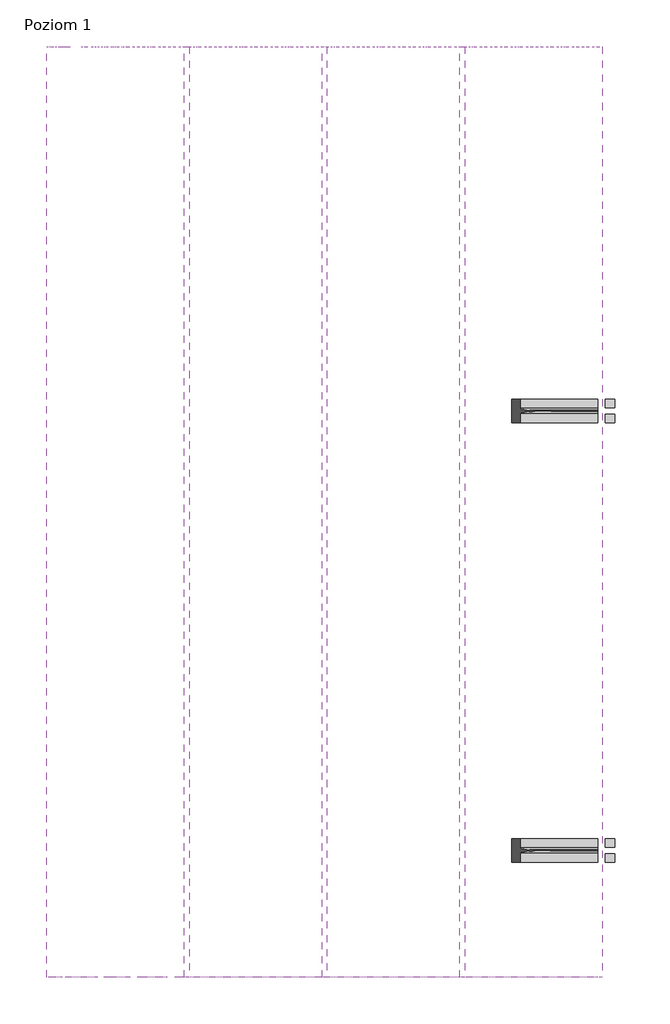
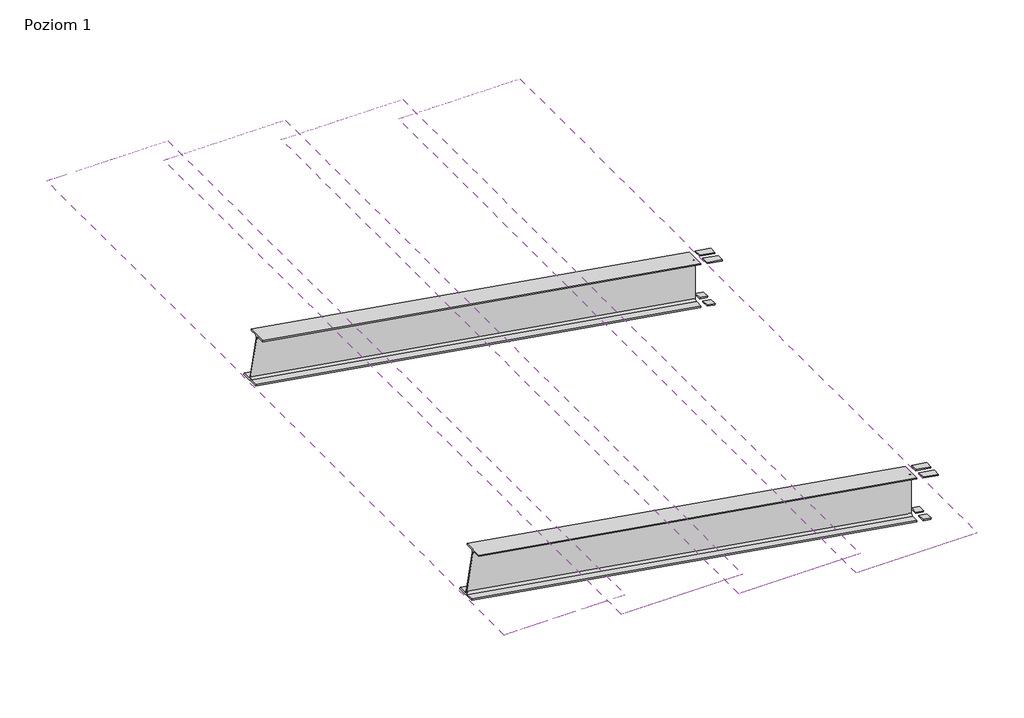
# One storey: 4 coverings, 2 beams.
"""IFC4 building model written with IfcOpenShell, lengths in millimetres."""

from ifc_helpers import new_model, si_unit, point, frame, frame_2d, origin, place, context, project, spatial, polyline, circle_curve, ellipse_curve, trimmed, segment, composite_curve, outline, extrude, faceted_brep, transform, mapped, element, save
from ifc_brep_helpers import plane_surface, cylinder_surface, revolved_surface, advanced_brep
from components import covering_1a136c0f

model = new_model("IFC4")

# Units and contexts
model_context = context("Model", 3, world=origin())
ifc_project = project(units=[si_unit("LENGTHUNIT", "METRE", prefix="MILLI")], contexts=[model_context])

# Site, building, storey
site = spatial("IfcSite", under=ifc_project)
building = spatial("IfcBuilding", under=site)
storey = spatial("IfcBuildingStorey", under=building, Name="Poziom 1", Elevation=3000.0)

# Beams
placement = place(None, origin())
element("IfcBeam", 1, ObjectType="Standard2 : Standard", at=placement, inside=storey, context=model_context, shape_type="SolidModel", body=[
    advanced_brep(
    [(-4809.5463115, -7785.3492704, 4748.6330156), (-4809.5463115, -7717.7942704, 4748.6330156), (-4806.6869603, -7700.0942704, 4766.1005314), (-4750.6630614, -7700.0942704, 5108.3454185), (-4747.8037101, -7717.7942704, 5125.8129344), (-4747.8037101, -7785.3492704, 5125.8129344), (-4746.0428667, -7785.3492704, 5136.5697662), (-4746.0428667, -7607.3492704, 5136.5697662), (-4747.8037101, -7607.3492704, 5125.8129344), (-4747.8037101, -7674.9042704, 5125.8129344), (-4750.6630614, -7692.6042704, 5108.3454185), (-4806.6869603, -7692.6042704, 4766.1005314), (-4809.5463115, -7674.9042704, 4748.6330156), (-4809.5463115, -7607.3492704, 4748.6330156), (-4811.307155, -7607.3492704, 4737.8761837), (-4811.307155, -7785.3492704, 4737.8761837), (-877.2962443, -7785.3492704, 4104.9419374), (-877.2962443, -7717.7942704, 4104.9419374), (-877.2962443, -7700.0942704, 4122.8775158), (-877.2962443, -7700.0942704, 4474.2932551), (-877.2962443, -7717.7942704, 4492.2288334), (-877.2962443, -7785.3492704, 4492.2288334), (-877.2962443, -7785.3492704, 4503.2739071), (-877.2962443, -7607.3492704, 4503.2739071), (-877.2962443, -7607.3492704, 4492.2288334), (-877.2962443, -7674.9042704, 4492.2288334), (-877.2962443, -7692.6042704, 4474.2932551), (-877.2962443, -7692.6042704, 4122.8775158), (-877.2962443, -7674.9042704, 4104.9419374), (-877.2962443, -7607.3492704, 4104.9419374), (-877.2962443, -7607.3492704, 4093.8968637), (-877.2962443, -7785.3492704, 4093.8968637)],
    [
        (0, 1),
        (1, 2, circle_curve(frame((-4806.6869603, -7717.7942704, 4766.1005314), z_axis=(0.9868653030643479, 0.0, -0.16154526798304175), x_axis=(0.0, 1.0, 0.0)), 17.7)),
        (2, 3),
        (3, 4, circle_curve(frame((-4750.6630614, -7717.7942704, 5108.3454185), z_axis=(0.9868653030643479, 0.0, -0.16154526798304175), x_axis=(0.0, 1.0, 0.0)), 17.7)),
        (4, 5),
        (5, 6),
        (6, 7),
        (7, 8),
        (8, 9),
        (9, 10, circle_curve(frame((-4750.6630614, -7674.9042704, 5108.3454185), z_axis=(0.9868653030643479, 0.0, -0.16154526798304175), x_axis=(0.0, 1.0, 0.0)), 17.7)),
        (10, 11),
        (11, 12, circle_curve(frame((-4806.6869603, -7674.9042704, 4766.1005314), z_axis=(0.9868653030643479, 0.0, -0.16154526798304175), x_axis=(0.0, 1.0, 0.0)), 17.7)),
        (12, 13),
        (13, 14),
        (14, 15),
        (15, 0),
        (0, 16),
        (16, 17),
        (17, 1),
        (17, 18, ellipse_curve(frame((-877.2962443, -7717.7942704, 4122.8775158), z_axis=(1.0, 0.0, 0.0), x_axis=(0.0, 0.0, -1.0)), 17.9355784, 17.7)),
        (18, 2),
        (18, 19),
        (19, 3),
        (19, 20, ellipse_curve(frame((-877.2962443, -7717.7942704, 4474.2932551), z_axis=(1.0, 0.0, 0.0), x_axis=(0.0, 0.0, -1.0)), 17.9355784, 17.7)),
        (20, 4),
        (20, 21),
        (21, 5),
        (21, 22),
        (22, 6),
        (22, 23),
        (23, 7),
        (23, 24),
        (24, 8),
        (24, 25),
        (25, 9),
        (25, 26, ellipse_curve(frame((-877.2962443, -7674.9042704, 4474.2932551), z_axis=(1.0, 0.0, 0.0), x_axis=(0.0, 0.0, -1.0)), 17.9355784, 17.7)),
        (26, 10),
        (26, 27),
        (27, 11),
        (27, 28, ellipse_curve(frame((-877.2962443, -7674.9042704, 4122.8775158), z_axis=(1.0, 0.0, 0.0), x_axis=(0.0, 0.0, -1.0)), 17.9355784, 17.7)),
        (28, 12),
        (28, 29),
        (29, 13),
        (29, 30),
        (30, 14),
        (30, 31),
        (31, 15),
        (31, 16),
    ],
    [
        plane_surface(frame((-4778.6750108, -7696.3492704, 4937.222975), z_axis=(-0.9868653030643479, 0.0, 0.16154526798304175), x_axis=(0.16154526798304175, 0.0, 0.9868653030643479))),
        plane_surface(frame((-4809.5463115, -7785.3492704, 4748.6330156), z_axis=(0.16154526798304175, 0.0, 0.9868653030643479), x_axis=(0.9868653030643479, 0.0, -0.16154526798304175))),
        revolved_surface(polyline([(-874.4368930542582, -7700.0942704, 4122.409453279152), (-4806.6869603, -7700.0942704, 4766.1005314)]), (-4806.6869603, -7717.7942704, 4766.1005314), (0.9868653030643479, 0.0, -0.16154526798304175)),
        plane_surface(frame((-4806.6869603, -7700.0942704, 4766.1005314), z_axis=(0.0, -1.0, 0.0), x_axis=(0.9868653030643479, 0.0, -0.16154526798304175))),
        revolved_surface(polyline([(-874.4368930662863, -7700.0942704, 4473.825192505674), (-4750.6630614, -7700.0942704, 5108.3454185)]), (-4750.6630614, -7717.7942704, 5108.3454185), (0.9868653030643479, 0.0, -0.16154526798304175)),
        plane_surface(frame((-4747.8037101, -7717.7942704, 5125.8129344), z_axis=(-0.16154526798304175, 0.0, -0.9868653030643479), x_axis=(0.9868653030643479, 0.0, -0.16154526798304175))),
        plane_surface(frame((-4747.8037101, -7785.3492704, 5125.8129344), z_axis=(0.0, -1.0, 0.0), x_axis=(0.9868653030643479, 0.0, -0.16154526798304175))),
        plane_surface(frame((-4746.0428667, -7785.3492704, 5136.5697662), z_axis=(0.16154526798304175, 0.0, 0.9868653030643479), x_axis=(0.9868653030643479, 0.0, -0.16154526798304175))),
        plane_surface(frame((-4746.0428667, -7607.3492704, 5136.5697662), z_axis=(0.0, 1.0, 0.0), x_axis=(0.9868653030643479, 0.0, -0.16154526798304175))),
        plane_surface(frame((-4747.8037101, -7607.3492704, 5125.8129344), z_axis=(-0.16154526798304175, 0.0, -0.9868653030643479), x_axis=(0.9868653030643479, 0.0, -0.16154526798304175))),
        revolved_surface(polyline([(-874.4368930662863, -7657.2042704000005, 4473.825192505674), (-4750.6630614, -7657.2042704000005, 5108.3454185)]), (-4750.6630614, -7674.9042704, 5108.3454185), (0.9868653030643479, 0.0, -0.16154526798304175)),
        plane_surface(frame((-4750.6630614, -7692.6042704, 5108.3454185), z_axis=(0.0, 1.0, 0.0), x_axis=(0.9868653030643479, 0.0, -0.16154526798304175))),
        revolved_surface(polyline([(-874.4368930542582, -7657.2042704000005, 4122.409453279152), (-4806.6869603, -7657.2042704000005, 4766.1005314)]), (-4806.6869603, -7674.9042704, 4766.1005314), (0.9868653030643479, 0.0, -0.16154526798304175)),
        plane_surface(frame((-4809.5463115, -7674.9042704, 4748.6330156), z_axis=(0.16154526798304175, 0.0, 0.9868653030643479), x_axis=(0.9868653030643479, 0.0, -0.16154526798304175))),
        plane_surface(frame((-4809.5463115, -7607.3492704, 4748.6330156), z_axis=(0.0, 1.0, 0.0), x_axis=(0.9868653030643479, 0.0, -0.16154526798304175))),
        plane_surface(frame((-4811.307155, -7607.3492704, 4737.8761837), z_axis=(-0.16154526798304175, 0.0, -0.9868653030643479), x_axis=(0.9868653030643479, 0.0, -0.16154526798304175))),
        plane_surface(frame((-4811.307155, -7785.3492704, 4737.8761837), z_axis=(0.0, -1.0, 0.0), x_axis=(0.9868653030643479, 0.0, -0.16154526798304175))),
        plane_surface(frame((-877.2962443, -7805.8492704, -20.0), z_axis=(1.0, 0.0, 0.0), x_axis=(0.0, 0.0, 1.0))),
    ],
    [
        (0, [[1, 2, 3, 4, 5, 6, 7, 8, 9, 10, 11, 12, 13, 14, 15, 16]]),
        (1, [[-1, 17, 18, 19]]),
        (2, [[-2, -19, 20, 21]]),
        (3, [[-3, -21, 22, 23]]),
        (4, [[-4, -23, 24, 25]]),
        (5, [[-5, -25, 26, 27]]),
        (6, [[-6, -27, 28, 29]]),
        (7, [[-7, -29, 30, 31]]),
        (8, [[-8, -31, 32, 33]]),
        (9, [[-9, -33, 34, 35]]),
        (10, [[-10, -35, 36, 37]]),
        (11, [[-11, -37, 38, 39]]),
        (12, [[-12, -39, 40, 41]]),
        (13, [[-13, -41, 42, 43]]),
        (14, [[-14, -43, 44, 45]]),
        (15, [[-15, -45, 46, 47]]),
        (16, [[-16, -47, 48, -17]]),
        (17, [[-18, -48, -46, -44, -42, -40, -38, -36, -34, -32, -30, -28, -26, -24, -22, -20]]),
    ],
),
    faceted_brep([(-754.3610265, -7607.3492704, 4073.7729394), (-752.6001831, -7607.3492704, 4084.5297712), (-752.6001831, -7671.9692704, 4084.5297712), (-754.3610265, -7671.9692704, 4073.7729394), (-822.8962443, -7671.9692704, 4084.9918363), (-822.8962443, -7671.9692704, 4096.03691), (-822.8962443, -7607.3492704, 4096.03691), (-822.8962443, -7607.3492704, 4084.9918363)], [[[0, 1, 2, 3]], [[4, 5, 6, 7]], [[5, 4, 3, 2]], [[2, 1, 6, 5]], [[1, 0, 7, 6]], [[0, 3, 4, 7]]]),
    faceted_brep([(-822.8962443, -7720.7292704, 4084.9918363), (-822.8962443, -7720.7292704, 4096.03691), (-752.6001831, -7720.7292704, 4084.5297712), (-754.3610265, -7720.7292704, 4073.7729394), (-822.8962443, -7785.3492704, 4084.9918363), (-822.8962443, -7785.3492704, 4096.03691), (-752.6001831, -7785.3492704, 4084.5297712), (-754.3610265, -7785.3492704, 4073.7729394)], [[[0, 1, 2, 3]], [[1, 0, 4, 5]], [[6, 7, 3, 2]], [[6, 2, 1, 5]], [[3, 7, 4, 0]], [[7, 6, 5, 4]]]),
    faceted_brep([(-690.8575817, -7607.3492704, 4461.70969), (-689.0967383, -7607.3492704, 4472.4665218), (-689.0967383, -7671.9692704, 4472.4665218), (-690.8575817, -7671.9692704, 4461.70969), (-822.8962443, -7607.3492704, 4494.3688797), (-822.8962443, -7671.9692704, 4494.3688797), (-822.8962443, -7607.3492704, 4483.323806), (-822.8962443, -7671.9692704, 4483.323806)], [[[0, 1, 2, 3]], [[2, 1, 4, 5]], [[1, 0, 6, 4]], [[0, 3, 7, 6]], [[7, 5, 4, 6]], [[5, 7, 3, 2]]]),
    faceted_brep([(-689.0967383, -7785.3492704, 4472.4665218), (-690.8575817, -7785.3492704, 4461.70969), (-690.8575817, -7720.7292704, 4461.70969), (-689.0967383, -7720.7292704, 4472.4665218), (-822.8962443, -7785.3492704, 4483.323806), (-822.8962443, -7720.7292704, 4483.323806), (-822.8962443, -7785.3492704, 4494.3688797), (-822.8962443, -7720.7292704, 4494.3688797)], [[[0, 1, 2, 3]], [[2, 1, 4, 5]], [[1, 0, 6, 4]], [[0, 3, 7, 6]], [[5, 7, 3, 2]], [[7, 5, 4, 6]]]),
])
element("IfcBeam", 2, ObjectType="Standard2 : Standard", at=placement, inside=storey, context=model_context, shape_type="SolidModel", body=[
    advanced_brep(
    [(-4809.5463115, -4480.5492704, 4748.6330156), (-4809.5463115, -4412.9942704, 4748.6330156), (-4806.6869603, -4395.2942704, 4766.1005314), (-4750.6630614, -4395.2942704, 5108.3454185), (-4747.8037101, -4412.9942704, 5125.8129344), (-4747.8037101, -4480.5492704, 5125.8129344), (-4746.0428667, -4480.5492704, 5136.5697662), (-4746.0428667, -4302.5492704, 5136.5697662), (-4747.8037101, -4302.5492704, 5125.8129344), (-4747.8037101, -4370.1042704, 5125.8129344), (-4750.6630614, -4387.8042704, 5108.3454185), (-4806.6869603, -4387.8042704, 4766.1005314), (-4809.5463115, -4370.1042704, 4748.6330156), (-4809.5463115, -4302.5492704, 4748.6330156), (-4811.307155, -4302.5492704, 4737.8761837), (-4811.307155, -4480.5492704, 4737.8761837), (-877.2962443, -4480.5492704, 4104.9419374), (-877.2962443, -4412.9942704, 4104.9419374), (-877.2962443, -4395.2942704, 4122.8775158), (-877.2962443, -4395.2942704, 4474.2932551), (-877.2962443, -4412.9942704, 4492.2288334), (-877.2962443, -4480.5492704, 4492.2288334), (-877.2962443, -4480.5492704, 4503.2739071), (-877.2962443, -4302.5492704, 4503.2739071), (-877.2962443, -4302.5492704, 4492.2288334), (-877.2962443, -4370.1042704, 4492.2288334), (-877.2962443, -4387.8042704, 4474.2932551), (-877.2962443, -4387.8042704, 4122.8775158), (-877.2962443, -4370.1042704, 4104.9419374), (-877.2962443, -4302.5492704, 4104.9419374), (-877.2962443, -4302.5492704, 4093.8968637), (-877.2962443, -4480.5492704, 4093.8968637)],
    [
        (0, 1),
        (1, 2, circle_curve(frame((-4806.6869603, -4412.9942704, 4766.1005314), z_axis=(0.9868653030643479, 0.0, -0.16154526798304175), x_axis=(0.0, 1.0, 0.0)), 17.7)),
        (2, 3),
        (3, 4, circle_curve(frame((-4750.6630614, -4412.9942704, 5108.3454185), z_axis=(0.9868653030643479, 0.0, -0.16154526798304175), x_axis=(0.0, 1.0, 0.0)), 17.7)),
        (4, 5),
        (5, 6),
        (6, 7),
        (7, 8),
        (8, 9),
        (9, 10, circle_curve(frame((-4750.6630614, -4370.1042704, 5108.3454185), z_axis=(0.9868653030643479, 0.0, -0.16154526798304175), x_axis=(0.0, 1.0, 0.0)), 17.7)),
        (10, 11),
        (11, 12, circle_curve(frame((-4806.6869603, -4370.1042704, 4766.1005314), z_axis=(0.9868653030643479, 0.0, -0.16154526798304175), x_axis=(0.0, 1.0, 0.0)), 17.7)),
        (12, 13),
        (13, 14),
        (14, 15),
        (15, 0),
        (0, 16),
        (16, 17),
        (17, 1),
        (17, 18, ellipse_curve(frame((-877.2962443, -4412.9942704, 4122.8775158), z_axis=(1.0, 0.0, 0.0), x_axis=(0.0, 0.0, -1.0)), 17.9355784, 17.7)),
        (18, 2),
        (18, 19),
        (19, 3),
        (19, 20, ellipse_curve(frame((-877.2962443, -4412.9942704, 4474.2932551), z_axis=(1.0, 0.0, 0.0), x_axis=(0.0, 0.0, -1.0)), 17.9355784, 17.7)),
        (20, 4),
        (20, 21),
        (21, 5),
        (21, 22),
        (22, 6),
        (22, 23),
        (23, 7),
        (23, 24),
        (24, 8),
        (24, 25),
        (25, 9),
        (25, 26, ellipse_curve(frame((-877.2962443, -4370.1042704, 4474.2932551), z_axis=(1.0, 0.0, 0.0), x_axis=(0.0, 0.0, -1.0)), 17.9355784, 17.7)),
        (26, 10),
        (26, 27),
        (27, 11),
        (27, 28, ellipse_curve(frame((-877.2962443, -4370.1042704, 4122.8775158), z_axis=(1.0, 0.0, 0.0), x_axis=(0.0, 0.0, -1.0)), 17.9355784, 17.7)),
        (28, 12),
        (28, 29),
        (29, 13),
        (29, 30),
        (30, 14),
        (30, 31),
        (31, 15),
        (31, 16),
    ],
    [
        plane_surface(frame((-4778.6750108, -4391.5492704, 4937.222975), z_axis=(-0.9868653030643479, 0.0, 0.16154526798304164), x_axis=(0.16154526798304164, 0.0, 0.9868653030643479))),
        plane_surface(frame((-4809.5463115, -4480.5492704, 4748.6330156), z_axis=(0.16154526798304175, 0.0, 0.9868653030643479), x_axis=(0.9868653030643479, 0.0, -0.16154526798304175))),
        revolved_surface(polyline([(-874.4368930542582, -4395.2942704, 4122.409453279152), (-4806.6869603, -4395.2942704, 4766.1005314)]), (-4806.6869603, -4412.9942704, 4766.1005314), (0.9868653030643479, 0.0, -0.16154526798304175)),
        plane_surface(frame((-4806.6869603, -4395.2942704, 4766.1005314), z_axis=(0.0, -1.0, 0.0), x_axis=(0.9868653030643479, 0.0, -0.16154526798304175))),
        revolved_surface(polyline([(-874.4368930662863, -4395.2942704, 4473.825192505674), (-4750.6630614, -4395.2942704, 5108.3454185)]), (-4750.6630614, -4412.9942704, 5108.3454185), (0.9868653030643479, 0.0, -0.16154526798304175)),
        plane_surface(frame((-4747.8037101, -4412.9942704, 5125.8129344), z_axis=(-0.16154526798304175, 0.0, -0.9868653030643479), x_axis=(0.9868653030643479, 0.0, -0.16154526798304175))),
        plane_surface(frame((-4747.8037101, -4480.5492704, 5125.8129344), z_axis=(0.0, -1.0, 0.0), x_axis=(0.9868653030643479, 0.0, -0.16154526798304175))),
        plane_surface(frame((-4746.0428667, -4480.5492704, 5136.5697662), z_axis=(0.16154526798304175, 0.0, 0.9868653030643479), x_axis=(0.9868653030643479, 0.0, -0.16154526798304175))),
        plane_surface(frame((-4746.0428667, -4302.5492704, 5136.5697662), z_axis=(0.0, 1.0, 0.0), x_axis=(0.9868653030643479, 0.0, -0.16154526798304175))),
        plane_surface(frame((-4747.8037101, -4302.5492704, 5125.8129344), z_axis=(-0.16154526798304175, 0.0, -0.9868653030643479), x_axis=(0.9868653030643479, 0.0, -0.16154526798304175))),
        revolved_surface(polyline([(-874.4368930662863, -4352.4042704, 4473.825192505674), (-4750.6630614, -4352.4042704, 5108.3454185)]), (-4750.6630614, -4370.1042704, 5108.3454185), (0.9868653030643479, 0.0, -0.16154526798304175)),
        plane_surface(frame((-4750.6630614, -4387.8042704, 5108.3454185), z_axis=(0.0, 1.0, 0.0), x_axis=(0.9868653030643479, 0.0, -0.16154526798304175))),
        revolved_surface(polyline([(-874.4368930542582, -4352.4042704, 4122.409453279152), (-4806.6869603, -4352.4042704, 4766.1005314)]), (-4806.6869603, -4370.1042704, 4766.1005314), (0.9868653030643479, 0.0, -0.16154526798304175)),
        plane_surface(frame((-4809.5463115, -4370.1042704, 4748.6330156), z_axis=(0.16154526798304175, 0.0, 0.9868653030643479), x_axis=(0.9868653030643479, 0.0, -0.16154526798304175))),
        plane_surface(frame((-4809.5463115, -4302.5492704, 4748.6330156), z_axis=(0.0, 1.0, 0.0), x_axis=(0.9868653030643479, 0.0, -0.16154526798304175))),
        plane_surface(frame((-4811.307155, -4302.5492704, 4737.8761837), z_axis=(-0.16154526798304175, 0.0, -0.9868653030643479), x_axis=(0.9868653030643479, 0.0, -0.16154526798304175))),
        plane_surface(frame((-4811.307155, -4480.5492704, 4737.8761837), z_axis=(0.0, -1.0, 0.0), x_axis=(0.9868653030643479, 0.0, -0.16154526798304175))),
        plane_surface(frame((-877.2962443, -4501.0492704, -20.0), z_axis=(1.0, 0.0, 0.0), x_axis=(0.0, 0.0, 1.0))),
    ],
    [
        (0, [[1, 2, 3, 4, 5, 6, 7, 8, 9, 10, 11, 12, 13, 14, 15, 16]]),
        (1, [[-1, 17, 18, 19]]),
        (2, [[-2, -19, 20, 21]]),
        (3, [[-3, -21, 22, 23]]),
        (4, [[-4, -23, 24, 25]]),
        (5, [[-5, -25, 26, 27]]),
        (6, [[-6, -27, 28, 29]]),
        (7, [[-7, -29, 30, 31]]),
        (8, [[-8, -31, 32, 33]]),
        (9, [[-9, -33, 34, 35]]),
        (10, [[-10, -35, 36, 37]]),
        (11, [[-11, -37, 38, 39]]),
        (12, [[-12, -39, 40, 41]]),
        (13, [[-13, -41, 42, 43]]),
        (14, [[-14, -43, 44, 45]]),
        (15, [[-15, -45, 46, 47]]),
        (16, [[-16, -47, 48, -17]]),
        (17, [[-18, -48, -46, -44, -42, -40, -38, -36, -34, -32, -30, -28, -26, -24, -22, -20]]),
    ],
),
    faceted_brep([(-754.3610265, -4302.5492704, 4073.7729394), (-752.6001831, -4302.5492704, 4084.5297712), (-752.6001831, -4367.1692704, 4084.5297712), (-754.3610265, -4367.1692704, 4073.7729394), (-822.8962443, -4367.1692704, 4084.9918363), (-822.8962443, -4367.1692704, 4096.03691), (-822.8962443, -4302.5492704, 4096.03691), (-822.8962443, -4302.5492704, 4084.9918363)], [[[0, 1, 2, 3]], [[4, 5, 6, 7]], [[5, 4, 3, 2]], [[2, 1, 6, 5]], [[1, 0, 7, 6]], [[0, 3, 4, 7]]]),
    faceted_brep([(-822.8962443, -4415.9292704, 4084.9918363), (-822.8962443, -4415.9292704, 4096.03691), (-752.6001831, -4415.9292704, 4084.5297712), (-754.3610265, -4415.9292704, 4073.7729394), (-822.8962443, -4480.5492704, 4084.9918363), (-822.8962443, -4480.5492704, 4096.03691), (-752.6001831, -4480.5492704, 4084.5297712), (-754.3610265, -4480.5492704, 4073.7729394)], [[[0, 1, 2, 3]], [[1, 0, 4, 5]], [[6, 7, 3, 2]], [[6, 2, 1, 5]], [[3, 7, 4, 0]], [[7, 6, 5, 4]]]),
    faceted_brep([(-690.8575817, -4302.5492704, 4461.70969), (-689.0967383, -4302.5492704, 4472.4665218), (-689.0967383, -4367.1692704, 4472.4665218), (-690.8575817, -4367.1692704, 4461.70969), (-822.8962443, -4302.5492704, 4494.3688797), (-822.8962443, -4367.1692704, 4494.3688797), (-822.8962443, -4302.5492704, 4483.323806), (-822.8962443, -4367.1692704, 4483.323806)], [[[0, 1, 2, 3]], [[2, 1, 4, 5]], [[1, 0, 6, 4]], [[0, 3, 7, 6]], [[7, 5, 4, 6]], [[5, 7, 3, 2]]]),
    faceted_brep([(-689.0967383, -4480.5492704, 4472.4665218), (-690.8575817, -4480.5492704, 4461.70969), (-690.8575817, -4415.9292704, 4461.70969), (-689.0967383, -4415.9292704, 4472.4665218), (-822.8962443, -4480.5492704, 4483.323806), (-822.8962443, -4415.9292704, 4483.323806), (-822.8962443, -4480.5492704, 4494.3688797), (-822.8962443, -4415.9292704, 4494.3688797)], [[[0, 1, 2, 3]], [[2, 1, 4, 5]], [[1, 0, 6, 4]], [[0, 3, 7, 6]], [[5, 7, 3, 2]], [[7, 5, 4, 6]]]),
])

# Coverings
element("IfcCovering", 3, ObjectType="Płyta warstwowa dachowa SPR CORE PIR (pojedynczy arkusz) : -", at=placement, inside=storey, context=model_context, shape_type="SolidModel", body=[
    extrude(outline(polyline([(6999.9999825, -1049.0), (0.0, -1049.0000001), (1e-07, -1.8670001), (6999.9999825, -1.8670001), (6999.9999825, -1049.0)])), frame((-3958.005997, -1651.2095372, 5057.2239557), z_axis=(0.16154526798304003, 0.0, 0.9868653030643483), x_axis=(-3.302680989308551e-08, -0.9999999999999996, 5.406335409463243e-09)), (0.0, 0.0, 1.0), 49.0),
    advanced_brep(
    [(-5002.1302834, -1651.2095021, 5178.4900873), (-5020.9927191, -1651.2095014, 5181.5777804), (-5020.4156205, -1651.2095014, 5185.5353154), (-5004.6939706, -1651.209502, 5183.5223016), (-4999.6815587, -1651.2095021, 5187.2589078), (-4993.2277, -1651.2095021, 5226.6849418), (-3959.8484746, -1651.2095372, 5057.5255607), (-3966.1640325, -1651.2095372, 5018.9443933), (-3968.9487102, -1651.2095371, 5016.8685015), (-3986.2312808, -1651.2095365, 5019.0814076), (-3988.4590229, -1651.2095364, 5017.4206942), (-3988.9113497, -1651.2095364, 5014.6574713), (-3991.2081708, -1651.2095364, 5013.0068313), (-5020.9929503, -8651.2094839, 5181.5778183), (-5002.1305146, -8651.2094845, 5178.4901251), (-3991.208402, -8651.2095188, 5013.0068691), (-3988.9115809, -8651.2095189, 5014.6575092), (-3988.4592541, -8651.2095189, 5017.420732), (-3986.231512, -8651.2095189, 5019.0814454), (-3968.9489414, -8651.2095195, 5016.8685393), (-3966.1642637, -8651.2095196, 5018.9444311), (-3959.8487058, -8651.2095196, 5057.5255986), (-4993.2279311, -8651.2094846, 5226.6849797), (-4999.6817899, -8651.2094846, 5187.2589457), (-5004.6942018, -8651.2094844, 5183.5223395), (-5020.4158517, -8651.2094839, 5185.5353533)],
    [
        (0, 1),
        (1, 2, circle_curve(frame((-5020.6696286, -1651.2095014, 5183.551511), z_axis=(3.302680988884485e-08, 0.9999999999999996, -5.406335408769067e-09), x_axis=(0.9868653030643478, -3.346638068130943e-08, -0.16154526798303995)), 2.0)),
        (2, 3),
        (3, 4, circle_curve(frame((-5004.1224525, -1651.209502, 5187.9858615), z_axis=(-3.302680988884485e-08, -0.9999999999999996, 5.406335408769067e-09), x_axis=(0.9868653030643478, -3.346638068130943e-08, -0.16154526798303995)), 4.5)),
        (4, 5),
        (5, 6),
        (6, 7),
        (7, 8, circle_curve(frame((-3968.6311958, -1651.2095371, 5019.3482564), z_axis=(3.302680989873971e-08, 0.9999999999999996, -5.4063354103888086e-09), x_axis=(0.9868653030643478, -3.3466380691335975e-08, -0.16154526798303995)), 2.5)),
        (8, 9),
        (9, 10, circle_curve(frame((-3986.4852923, -1651.2095365, 5017.0976036), z_axis=(-3.302680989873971e-08, -0.9999999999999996, 5.4063354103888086e-09), x_axis=(0.9868653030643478, -3.3466380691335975e-08, -0.16154526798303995)), 2.0)),
        (10, 11),
        (11, 12, circle_curve(frame((-3990.8850803, -1651.2095364, 5014.9805619), z_axis=(3.302680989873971e-08, 0.9999999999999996, -5.4063354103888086e-09), x_axis=(0.9868653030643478, -3.3466380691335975e-08, -0.16154526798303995)), 2.0)),
        (12, 0),
        (13, 14),
        (14, 15),
        (15, 16, circle_curve(frame((-3990.8853115, -8651.2095188, 5014.9805997), z_axis=(-3.302680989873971e-08, -0.9999999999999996, 5.4063354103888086e-09), x_axis=(0.9868653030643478, -3.3466380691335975e-08, -0.16154526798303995)), 2.0)),
        (16, 17),
        (17, 18, circle_curve(frame((-3986.4855235, -8651.2095189, 5017.0976415), z_axis=(3.302680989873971e-08, 0.9999999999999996, -5.4063354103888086e-09), x_axis=(0.9868653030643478, -3.3466380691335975e-08, -0.16154526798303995)), 2.0)),
        (18, 19),
        (19, 20, circle_curve(frame((-3968.631427, -8651.2095195, 5019.3482943), z_axis=(-3.302680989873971e-08, -0.9999999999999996, 5.4063354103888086e-09), x_axis=(0.9868653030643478, -3.3466380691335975e-08, -0.16154526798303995)), 2.5)),
        (20, 21),
        (21, 22),
        (22, 23),
        (23, 24, circle_curve(frame((-5004.1226837, -8651.2094844, 5187.9858994), z_axis=(3.302680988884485e-08, 0.9999999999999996, -5.406335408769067e-09), x_axis=(0.9868653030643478, -3.346638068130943e-08, -0.16154526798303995)), 4.5)),
        (24, 25),
        (25, 13, circle_curve(frame((-5020.6698598, -8651.2094839, 5183.5515489), z_axis=(-3.302680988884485e-08, -0.9999999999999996, 5.406335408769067e-09), x_axis=(0.9868653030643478, -3.346638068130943e-08, -0.16154526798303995)), 2.0)),
        (5, 22),
        (21, 6),
        (12, 15),
        (13, 1),
        (3, 24),
        (23, 4),
        (2, 25),
        (7, 20),
        (19, 8),
        (11, 16),
        (10, 17),
        (9, 18),
    ],
    [
        plane_surface(frame((-3958.005997, -1651.2095372, 5057.2239557), z_axis=(3.302680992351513e-08, 0.9999999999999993, -5.40633540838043e-09), x_axis=(0.9868653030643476, -3.3466380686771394e-08, -0.16154526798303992))),
        plane_surface(frame((-3958.0062282, -8651.2095197, 5057.2239936), z_axis=(-3.302680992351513e-08, -0.9999999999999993, 5.40633540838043e-09), x_axis=(-0.9868653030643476, 3.3466380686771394e-08, 0.16154526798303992))),
        plane_surface(frame((-5033.6891774, -1651.2095007, 5233.3082978), z_axis=(0.16154526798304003, 0.0, 0.9868653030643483), x_axis=(-3.302680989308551e-08, -0.9999999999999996, 5.406335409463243e-09))),
        plane_surface(frame((-3965.9217152, -1651.2095372, 5008.8675559), z_axis=(-0.16154526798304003, 0.0, -0.9868653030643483), x_axis=(-3.302680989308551e-08, -0.9999999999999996, 5.406335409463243e-09))),
        revolved_surface(polyline([(-4999.68155863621, -1651.2095021, 5187.258907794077), (-4999.681789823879, -8651.209484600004, 5187.258945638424)]), (-5004.1224525, -1651.209502, 5187.9858615), (3.302680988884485e-08, 0.9999999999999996, -5.406335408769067e-09)),
        plane_surface(frame((-5004.6939706, -1651.209502, 5183.5223016), z_axis=(0.127004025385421, 1.168018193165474e-09, 0.9919022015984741), x_axis=(-3.302680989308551e-08, -0.9999999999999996, 5.406335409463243e-09))),
        cylinder_surface(frame((-5020.6696286, -1651.2095014, 5183.551511), z_axis=(-3.302680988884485e-08, -0.9999999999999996, 5.406335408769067e-09), x_axis=(0.9868653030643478, -3.346638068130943e-08, -0.16154526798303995)), 2.0),
        plane_surface(frame((-4985.3119818, -1651.2095021, 5275.0413417), z_axis=(-0.9868653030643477, 3.346638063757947e-08, 0.16154526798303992), x_axis=(-3.3026809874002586e-08, -0.9999999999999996, 5.406335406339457e-09))),
        cylinder_surface(frame((-3968.6311958, -1651.2095371, 5019.3482564), z_axis=(-3.302680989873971e-08, -0.9999999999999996, 5.4063354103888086e-09), x_axis=(0.9868653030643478, -3.3466380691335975e-08, -0.16154526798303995)), 2.5),
        plane_surface(frame((-3966.1640325, -1651.2095372, 5018.9443933), z_axis=(0.9868653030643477, -3.346638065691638e-08, -0.16154526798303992), x_axis=(-3.302680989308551e-08, -0.9999999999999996, 5.406335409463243e-09))),
        cylinder_surface(frame((-3990.8850803, -1651.2095364, 5014.9805619), z_axis=(-3.302680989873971e-08, -0.9999999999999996, 5.4063354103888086e-09), x_axis=(0.9868653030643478, -3.3466380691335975e-08, -0.16154526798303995)), 2.0),
        plane_surface(frame((-3988.9113497, -1651.2095364, 5014.6574713), z_axis=(0.9868653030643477, -3.346638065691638e-08, -0.16154526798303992), x_axis=(-3.302680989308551e-08, -0.9999999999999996, 5.406335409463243e-09))),
        revolved_surface(polyline([(-3984.511561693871, -1651.2095365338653, 5016.774513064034), (-3984.51179288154, -8651.209519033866, 5016.774550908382)]), (-3986.4852923, -1651.2095365, 5017.0976036), (3.302680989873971e-08, 0.9999999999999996, -5.4063354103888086e-09)),
        plane_surface(frame((-3986.2312808, -1651.2095365, 5019.0814076), z_axis=(-0.12700575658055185, -1.1679598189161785e-09, -0.9919019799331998), x_axis=(-3.302680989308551e-08, -0.9999999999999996, 5.406335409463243e-09))),
    ],
    [
        (0, [[1, 2, 3, 4, 5, 6, 7, 8, 9, 10, 11, 12, 13]]),
        (1, [[14, 15, 16, 17, 18, 19, 20, 21, 22, 23, 24, 25, 26]]),
        (2, [[27, -22, 28, -6]]),
        (3, [[-1, -13, 29, -15, -14, 30]]),
        (4, [[31, -24, 32, -4]]),
        (5, [[-31, -3, 33, -25]]),
        (6, [[-33, -2, -30, -26]]),
        (7, [[-32, -23, -27, -5]]),
        (8, [[34, -20, 35, -8]]),
        (9, [[-34, -7, -28, -21]]),
        (10, [[36, -16, -29, -12]]),
        (11, [[-36, -11, 37, -17]]),
        (12, [[-37, -10, 38, -18]]),
        (13, [[-35, -19, -38, -9]]),
    ],
),
    extrude(outline(polyline([(-526.8667605, -1.0), (-526.8667604, 0.0), (-525.8667604, 0.0), (-502.7556495, 39.9999999), (-480.2889685, 40.0), (-457.1778575, 0.0), (-411.424379, -1e-07), (-409.1321658, 0.9999999), (-378.8372515, 1.0), (-376.5450381, 0.0), (-333.9619795, -1e-07), (-331.6697661, 0.9999999), (-301.3748518, 1.0), (-299.0826385, 0.0), (-256.4995798, -1e-07), (-254.2073666, 0.9999999), (-223.9124523, 1.0), (-221.6202389, 0.0), (-175.8667604, 0.0), (-152.7556495, 39.9999999), (-130.2889684, 40.0), (-107.1778576, 0.0), (-61.424379, 0.0), (-59.1321657, 0.9999999), (-28.8372514, 1.0), (-26.5450381, 0.0), (16.0380206, -1e-07), (18.3302339, 0.9999999), (48.6251482, 1.0), (50.9173615, 0.0), (93.5004202, -1e-07), (95.7926335, 0.9999999), (126.0875478, 1.0), (128.3797611, 0.0), (174.1332396, 0.0), (197.2443505, 39.9999999), (219.7110316, 40.0), (242.8221425, 0.0), (288.5756209, 0.0), (290.8678343, 0.9999999), (321.1627486, 1.0), (323.4549619, 0.0), (366.0380206, 0.0), (368.3302338, 0.9999999), (398.6251481, 1.0), (400.9173615, 0.0), (443.5004201, 0.0), (445.7926335, 0.9999999), (476.0875478, 1.0), (478.3797611, 0.0), (523.133, 0.0), (523.1330001, -1.0), (-526.8667605, -1.0)])), frame((-4468.0330178, -1651.2095197, 5191.3784866), z_axis=(-3.3026809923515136e-08, -0.9999999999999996, 5.406335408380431e-09), x_axis=(0.9868653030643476, -3.3466380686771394e-08, -0.16154526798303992)), (0.0, 0.0, 1.0), 6999.9999824),
    extrude(outline(polyline([(11.6926723, -0.5999999), (23.5176722, -1.0045268), (35.3426722, -0.6), (47.1676723, -1.0045268), (58.9926723, -0.6), (70.8176723, -1.0045268), (82.6426723, -0.6), (94.4676723, -1.0045268), (106.2926723, -0.6), (118.1176723, -1.0045268), (129.9426723, -0.6), (141.7676723, -1.0045268), (153.5926722, -0.5999999), (165.4176723, -1.0045269), (177.2426723, -0.5999999), (189.0676723, -1.0045268), (200.8926723, -0.5999999), (212.7176723, -1.0045268), (224.5426723, -0.5999999), (236.3676723, -1.0045268), (248.1926723, -0.6), (260.0176723, -1.0045268), (271.8426723, -0.6), (283.6676723, -1.0045268), (295.4926723, -0.6), (307.3176722, -1.0045268), (319.1426723, -0.6), (330.9676723, -1.0045268), (342.7926723, -0.5999999), (354.6176723, -1.0045269), (366.4426723, -0.5999999), (378.2676723, -1.0045269), (390.0926723, -0.5999999), (401.9176723, -1.0045268), (413.7426723, -0.6), (425.5676723, -1.0045268), (437.3926722, -0.6), (449.2176723, -1.0045268), (461.0426723, -0.6), (472.8676723, -1.0045268), (484.6926723, -0.6), (496.5176723, -1.0045268), (508.3426723, -0.6), (520.1676723, -1.0045268), (525.0, -0.8392156), (525.0, -2.0), (-499.3769939, -2.0), (-499.3769939, -0.906711), (-496.5176723, -1.0045268), (-484.6926723, -0.6), (-472.8676722, -1.0045268), (-461.0426722, -0.6), (-449.2176722, -1.0045268), (-437.3926722, -0.6), (-425.5676722, -1.0045268), (-413.7426723, -0.6), (-401.9176723, -1.0045268), (-390.0926723, -0.6), (-378.2676723, -1.0045268), (-366.4426723, -0.5999999), (-354.6176723, -1.0045269), (-342.7926723, -0.5999999), (-330.9676722, -1.0045269), (-319.1426722, -0.5999999), (-307.3176722, -1.0045268), (-295.4926722, -0.5999999), (-283.6676723, -1.0045268), (-271.8426723, -0.6), (-260.0176723, -1.0045268), (-248.1926723, -0.6), (-236.3676723, -1.0045268), (-224.5426723, -0.6), (-212.7176723, -1.0045268), (-200.8926722, -0.6), (-189.0676722, -1.0045268), (-177.2426722, -0.6), (-165.4176722, -1.0045268), (-153.5926723, -0.5999999), (-141.7676722, -1.0045269), (-129.9426723, -0.5999999), (-118.1176723, -1.0045268), (-106.2926723, -0.5999999), (-94.4676723, -1.0045268), (-82.6426723, -0.6), (-70.8176723, -1.0045268), (-58.9926722, -0.6), (-47.1676722, -1.0045268), (-35.3426722, -0.6), (-23.5176722, -1.0045268), (-11.6926722, -0.6), (1e-07, -1.0), (11.6926723, -0.5999999)])), frame((-4484.3490898, -1651.2095197, 5091.705091), z_axis=(-3.3026807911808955e-08, -0.9999999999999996, 5.406335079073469e-09), x_axis=(-0.9868653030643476, 3.346637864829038e-08, 0.16154526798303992)), (0.0, 0.0, 1.0), 6999.9999824),
    extrude(outline(composite_curve([segment(polyline([(-3.0, -23.6260061), (-5.8, -23.6260061)]), True, "CONTINUOUS"), segment(trimmed(circle_curve(frame_2d((-5.8, -21.6260061)), 2.0), [point((-5.8, -23.6260061))], [point((-7.7987816, -21.6958051))], False, "CARTESIAN"), True, "CONTINUOUS"), segment(polyline([(-7.7987816, -21.6958051), (-8.4068588, -4.2827513)]), True, "CONTINUOUS"), segment(trimmed(circle_curve(frame_2d((-10.905336, -4.37)), 2.5), [point((-8.4068588, -4.2827513))], [point((-10.9053359, -1.87))], True, "CARTESIAN"), True, "CONTINUOUS"), segment(polyline([(-10.9053359, -1.87), (-20.8250181, -1.87), (-20.8250181, -0.87), (-10.9053359, -0.87)]), True, "CONTINUOUS"), segment(trimmed(circle_curve(frame_2d((-10.905336, -4.37)), 3.5), [point((-10.9053359, -0.87))], [point((-7.407468, -4.2478517))], False, "CARTESIAN"), True, "CONTINUOUS"), segment(polyline([(-7.407468, -4.2478517), (-6.7993908, -21.6609056)]), True, "CONTINUOUS"), segment(trimmed(circle_curve(frame_2d((-5.8, -21.6260061)), 1.0), [point((-6.7993908, -21.6609056))], [point((-5.7999999, -22.6260061))], True, "CARTESIAN"), True, "CONTINUOUS"), segment(polyline([(-5.7999999, -22.6260061), (-3.0, -22.6260061)]), True, "CONTINUOUS"), segment(trimmed(circle_curve(frame_2d((-3.0, -25.6260061)), 3.0), [point((-3.0, -22.6260061))], [point((0.0, -25.6260061))], False, "CARTESIAN"), True, "CONTINUOUS"), segment(polyline([(0.0, -25.6260061), (-1.0, -25.6260061)]), True, "CONTINUOUS"), segment(trimmed(circle_curve(frame_2d((-3.0, -25.6260061)), 2.0), [point((-1.0, -25.6260061))], [point((-3.0, -23.6260061))], True, "CARTESIAN"), True, "CONTINUOUS")], self_intersect=False)), frame((-3966.0832604, -1651.2095372, 5007.8806906), z_axis=(-3.302680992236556e-08, -0.9999999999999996, 5.40633540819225e-09), x_axis=(-0.16154526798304, 0.0, -0.9868653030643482)), (0.0, 0.0, 1.0), 6999.9999824),
    extrude(outline(composite_curve([segment(polyline([(-5.5519662, -3.3429443), (-4.9987815, -19.183288)]), True, "CONTINUOUS"), segment(trimmed(circle_curve(frame_2d((-2.9999999, -19.1134855)), 2.0), [point((-4.9987815, -19.183288))], [point((-1.0, -19.1134855))], True, "CARTESIAN"), True, "CONTINUOUS"), segment(polyline([(-1.0, -19.1134855), (-1.0, 0.0), (0.0, 0.0), (0.0, -19.1134855)]), True, "CONTINUOUS"), segment(trimmed(circle_curve(frame_2d((-2.9999999, -19.1134855)), 3.0), [point((0.0, -19.1134855))], [point((-5.9981722, -19.2181892))], False, "CARTESIAN"), True, "CONTINUOUS"), segment(polyline([(-5.9981722, -19.2181892), (-6.5513569, -3.3778456)]), True, "CONTINUOUS"), segment(trimmed(circle_curve(frame_2d((-10.0492246, -3.4999999)), 3.5), [point((-6.5513569, -3.3778456))], [point((-10.0492246, 0.0))], True, "CARTESIAN"), True, "CONTINUOUS"), segment(polyline([(-10.0492246, 0.0), (-20.0492246, 0.0), (-20.0492246, 1.0), (-10.0492246, 1.0)]), True, "CONTINUOUS"), segment(trimmed(circle_curve(frame_2d((-10.0492246, -3.4999999)), 4.5), [point((-10.0492246, 1.0))], [point((-5.5519662, -3.3429443))], False, "CARTESIAN"), True, "CONTINUOUS")], self_intersect=False)), frame((-5002.2918287, -1651.2095021, 5177.503222), z_axis=(-3.302680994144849e-08, -0.9999999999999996, 5.4063354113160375e-09), x_axis=(-0.16154526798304, 0.0, -0.9868653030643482)), (0.0, 0.0, 1.0), 6999.9999824),
])
covering_shape = covering_1a136c0f(model_context)
element("IfcCovering", 4, ObjectType="Płyta warstwowa dachowa SPR CORE PIR (pojedynczy arkusz) : -", at=placement, inside=storey, context=model_context, shape_type="MappedRepresentation", body=[
    mapped(covering_shape, transform((-3984.4692504, -8651.2094833, 5112.2213431), x_axis=(-0.9868653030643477, 3.346637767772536e-08, 0.1615452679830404), y_axis=(-3.302680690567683e-08, -0.9999999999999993, 5.406334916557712e-09), z_axis=(0.16154526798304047, 0.0, 0.9868653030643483))),
])
element("IfcCovering", 5, ObjectType="Płyta warstwowa dachowa SPR CORE PIR (pojedynczy arkusz) : -", at=placement, inside=storey, context=model_context, shape_type="MappedRepresentation", body=[
    mapped(covering_shape, transform((-2948.2606822, -8651.2094833, 4942.5988117), x_axis=(-0.9868653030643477, 3.3466377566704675e-08, 0.16154526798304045), y_axis=(-3.302680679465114e-08, -0.9999999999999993, 5.406334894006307e-09), z_axis=(0.16154526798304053, 0.0, 0.9868653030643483))),
])
element("IfcCovering", 6, ObjectType="Płyta warstwowa dachowa SPR CORE PIR (pojedynczy arkusz) : -", at=placement, inside=storey, context=model_context, shape_type="MappedRepresentation", body=[
    mapped(covering_shape, transform((-1912.052114, -8651.2094833, 4772.9762803), x_axis=(-0.9868653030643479, 3.346637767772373e-08, 0.16154526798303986), y_axis=(-3.302680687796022e-08, -0.9999999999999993, 5.406334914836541e-09), z_axis=(0.16154526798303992, 0.0, 0.9868653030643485))),
])

save(model, "model.ifc")
